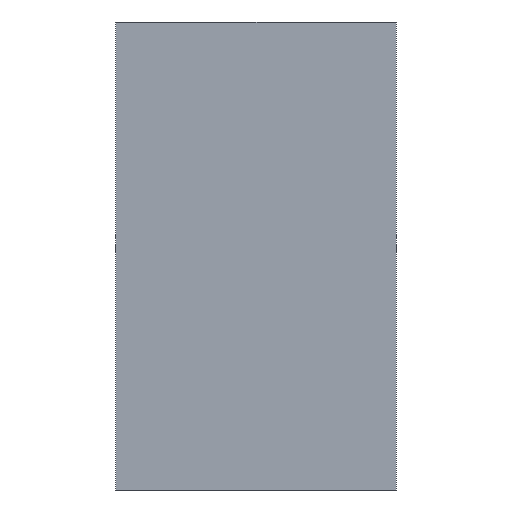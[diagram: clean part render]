
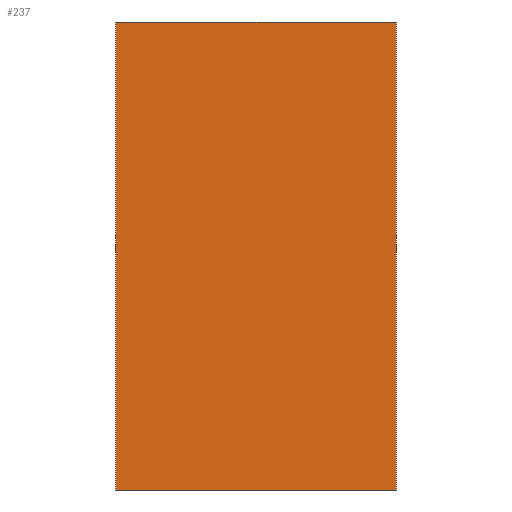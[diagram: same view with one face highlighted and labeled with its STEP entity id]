
A CAD part, front view. The second image highlights one B-rep face of the part: STEP entity #237.
In plain terms, the highlighted planar face has unit normal (0, -1, 0).
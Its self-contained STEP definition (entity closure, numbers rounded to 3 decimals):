
#21 = EDGE_CURVE('',#22,#24,#26,.T.);
#22 = VERTEX_POINT('',#23);
#23 = CARTESIAN_POINT('',(0.,0.,0.));
#24 = VERTEX_POINT('',#25);
#25 = CARTESIAN_POINT('',(0.,0.,3.));
#26 = SURFACE_CURVE('',#27,(#31,#43),.PCURVE_S1.);
#27 = LINE('',#28,#29);
#28 = CARTESIAN_POINT('',(0.,0.,0.));
#29 = VECTOR('',#30,1.);
#30 = DIRECTION('',(0.,0.,1.));
#31 = PCURVE('',#32,#37);
#32 = PLANE('',#33);
#33 = AXIS2_PLACEMENT_3D('',#34,#35,#36);
#34 = CARTESIAN_POINT('',(0.,0.,0.));
#35 = DIRECTION('',(1.,0.,-0.));
#36 = DIRECTION('',(0.,0.,1.));
#37 = DEFINITIONAL_REPRESENTATION('',(#38),#42);
#38 = LINE('',#39,#40);
#39 = CARTESIAN_POINT('',(0.,0.));
#40 = VECTOR('',#41,1.);
#41 = DIRECTION('',(1.,0.));
#42 = ( GEOMETRIC_REPRESENTATION_CONTEXT(2) 
PARAMETRIC_REPRESENTATION_CONTEXT() REPRESENTATION_CONTEXT('2D SPACE',''
  ) );
#43 = PCURVE('',#44,#49);
#44 = PLANE('',#45);
#45 = AXIS2_PLACEMENT_3D('',#46,#47,#48);
#46 = CARTESIAN_POINT('',(0.,0.,0.));
#47 = DIRECTION('',(-0.,1.,0.));
#48 = DIRECTION('',(0.,0.,1.));
#49 = DEFINITIONAL_REPRESENTATION('',(#50),#54);
#50 = LINE('',#51,#52);
#51 = CARTESIAN_POINT('',(0.,0.));
#52 = VECTOR('',#53,1.);
#53 = DIRECTION('',(1.,0.));
#54 = ( GEOMETRIC_REPRESENTATION_CONTEXT(2) 
PARAMETRIC_REPRESENTATION_CONTEXT() REPRESENTATION_CONTEXT('2D SPACE',''
  ) );
#72 = PLANE('',#73);
#73 = AXIS2_PLACEMENT_3D('',#74,#75,#76);
#74 = CARTESIAN_POINT('',(0.,0.,0.));
#75 = DIRECTION('',(0.,0.,1.));
#76 = DIRECTION('',(1.,0.,-0.));
#126 = PLANE('',#127);
#127 = AXIS2_PLACEMENT_3D('',#128,#129,#130);
#128 = CARTESIAN_POINT('',(0.,0.,3.));
#129 = DIRECTION('',(0.,0.,1.));
#130 = DIRECTION('',(1.,0.,-0.));
#141 = EDGE_CURVE('',#142,#144,#146,.T.);
#142 = VERTEX_POINT('',#143);
#143 = CARTESIAN_POINT('',(1.8,0.,0.));
#144 = VERTEX_POINT('',#145);
#145 = CARTESIAN_POINT('',(1.8,0.,3.));
#146 = SURFACE_CURVE('',#147,(#151,#163),.PCURVE_S1.);
#147 = LINE('',#148,#149);
#148 = CARTESIAN_POINT('',(1.8,0.,0.));
#149 = VECTOR('',#150,1.);
#150 = DIRECTION('',(0.,0.,1.));
#151 = PCURVE('',#152,#157);
#152 = PLANE('',#153);
#153 = AXIS2_PLACEMENT_3D('',#154,#155,#156);
#154 = CARTESIAN_POINT('',(1.8,0.,0.));
#155 = DIRECTION('',(1.,0.,-0.));
#156 = DIRECTION('',(0.,0.,1.));
#157 = DEFINITIONAL_REPRESENTATION('',(#158),#162);
#158 = LINE('',#159,#160);
#159 = CARTESIAN_POINT('',(0.,0.));
#160 = VECTOR('',#161,1.);
#161 = DIRECTION('',(1.,0.));
#162 = ( GEOMETRIC_REPRESENTATION_CONTEXT(2) 
PARAMETRIC_REPRESENTATION_CONTEXT() REPRESENTATION_CONTEXT('2D SPACE',''
  ) );
#163 = PCURVE('',#44,#164);
#164 = DEFINITIONAL_REPRESENTATION('',(#165),#169);
#165 = LINE('',#166,#167);
#166 = CARTESIAN_POINT('',(0.,1.8));
#167 = VECTOR('',#168,1.);
#168 = DIRECTION('',(1.,0.));
#169 = ( GEOMETRIC_REPRESENTATION_CONTEXT(2) 
PARAMETRIC_REPRESENTATION_CONTEXT() REPRESENTATION_CONTEXT('2D SPACE',''
  ) );
#237 = ADVANCED_FACE('',(#238),#44,.F.);
#238 = FACE_BOUND('',#239,.F.);
#239 = EDGE_LOOP('',(#240,#261,#262,#283));
#240 = ORIENTED_EDGE('',*,*,#241,.F.);
#241 = EDGE_CURVE('',#22,#142,#242,.T.);
#242 = SURFACE_CURVE('',#243,(#247,#254),.PCURVE_S1.);
#243 = LINE('',#244,#245);
#244 = CARTESIAN_POINT('',(0.,0.,0.));
#245 = VECTOR('',#246,1.);
#246 = DIRECTION('',(1.,0.,-0.));
#247 = PCURVE('',#44,#248);
#248 = DEFINITIONAL_REPRESENTATION('',(#249),#253);
#249 = LINE('',#250,#251);
#250 = CARTESIAN_POINT('',(0.,0.));
#251 = VECTOR('',#252,1.);
#252 = DIRECTION('',(0.,1.));
#253 = ( GEOMETRIC_REPRESENTATION_CONTEXT(2) 
PARAMETRIC_REPRESENTATION_CONTEXT() REPRESENTATION_CONTEXT('2D SPACE',''
  ) );
#254 = PCURVE('',#72,#255);
#255 = DEFINITIONAL_REPRESENTATION('',(#256),#260);
#256 = LINE('',#257,#258);
#257 = CARTESIAN_POINT('',(0.,0.));
#258 = VECTOR('',#259,1.);
#259 = DIRECTION('',(1.,0.));
#260 = ( GEOMETRIC_REPRESENTATION_CONTEXT(2) 
PARAMETRIC_REPRESENTATION_CONTEXT() REPRESENTATION_CONTEXT('2D SPACE',''
  ) );
#261 = ORIENTED_EDGE('',*,*,#21,.T.);
#262 = ORIENTED_EDGE('',*,*,#263,.T.);
#263 = EDGE_CURVE('',#24,#144,#264,.T.);
#264 = SURFACE_CURVE('',#265,(#269,#276),.PCURVE_S1.);
#265 = LINE('',#266,#267);
#266 = CARTESIAN_POINT('',(0.,0.,3.));
#267 = VECTOR('',#268,1.);
#268 = DIRECTION('',(1.,0.,-0.));
#269 = PCURVE('',#44,#270);
#270 = DEFINITIONAL_REPRESENTATION('',(#271),#275);
#271 = LINE('',#272,#273);
#272 = CARTESIAN_POINT('',(3.,0.));
#273 = VECTOR('',#274,1.);
#274 = DIRECTION('',(0.,1.));
#275 = ( GEOMETRIC_REPRESENTATION_CONTEXT(2) 
PARAMETRIC_REPRESENTATION_CONTEXT() REPRESENTATION_CONTEXT('2D SPACE',''
  ) );
#276 = PCURVE('',#126,#277);
#277 = DEFINITIONAL_REPRESENTATION('',(#278),#282);
#278 = LINE('',#279,#280);
#279 = CARTESIAN_POINT('',(0.,0.));
#280 = VECTOR('',#281,1.);
#281 = DIRECTION('',(1.,0.));
#282 = ( GEOMETRIC_REPRESENTATION_CONTEXT(2) 
PARAMETRIC_REPRESENTATION_CONTEXT() REPRESENTATION_CONTEXT('2D SPACE',''
  ) );
#283 = ORIENTED_EDGE('',*,*,#141,.F.);
